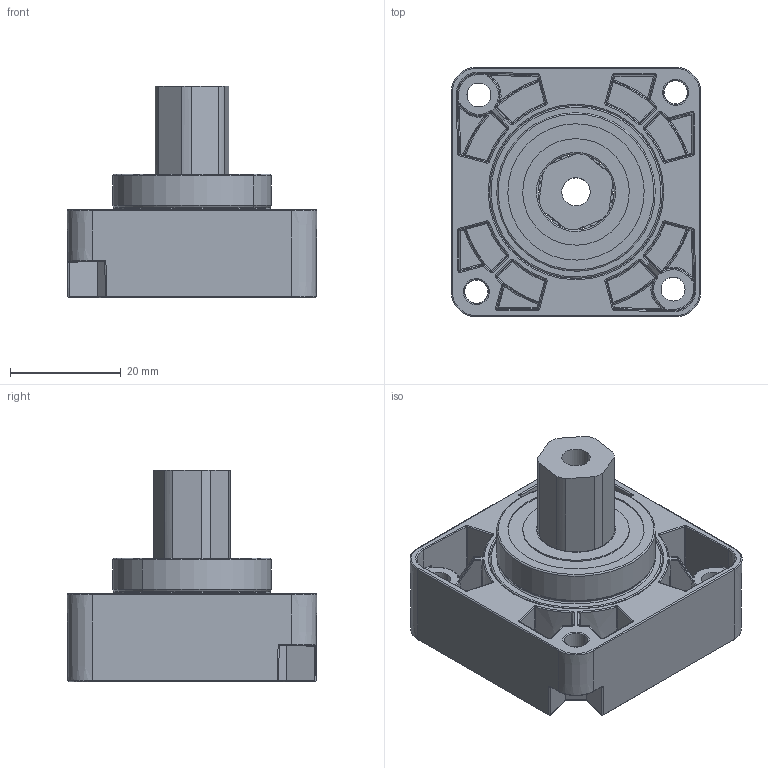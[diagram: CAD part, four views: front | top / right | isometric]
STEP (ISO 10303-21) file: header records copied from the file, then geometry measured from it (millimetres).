
FILE_DESCRIPTION (( 'STEP AP214' ), '1' );
FILE_NAME ('217-6011-SpeedReducer-20171201.STEP', '2017-12-01T16:22:17', ( '' ), ( '' ), 'SwSTEP 2.0', 'SolidWorks 2017', '' );
FILE_SCHEMA (( 'AUTOMOTIVE_DESIGN' ));
Length unit declared in the file: millimetre
Products named in the file (9): 217-6011-002 Rev5; 217-6011-003 Rev5; 217-5823-009 Rev1; 217-2741-001 Rev4; 217-6011-150 Rev1; 217-6011-001 Rev13; 217-6011-004 Rev1_9714K61; 217-6011-SpeedReducer-20171201; 217-4006-001 Rev6
Assembly tree (9 placements, depth 3):
  217-6011-SpeedReducer-20171201
    217-6011-150 Rev1
      217-6011-001 Rev13
      217-5823-009 Rev1  x2
    217-6011-002 Rev5
    217-6011-003 Rev5
    217-2741-001 Rev4
    217-4006-001 Rev6
    217-6011-004 Rev1_9714K61
Bounding box: 45 x 45 x 38.1 mm (x, y, z)
Volume: 19384.6 mm3; surface area: 21620 mm2
Topology: 8 solids, 8 shells, 1472 faces, 3430 edges, 1988 vertices
Faces by surface type: cylinder 398, bspline 328, plane 282, torus 189, sphere 159, cone 116
Entity records: 60274 total; most frequent: CARTESIAN_POINT 29187, ORIENTED_EDGE 6764, DIRECTION 6196, EDGE_CURVE 3382, AXIS2_PLACEMENT_3D 2595, VERTEX_POINT 1960, EDGE_LOOP 1494, ADVANCED_FACE 1454
